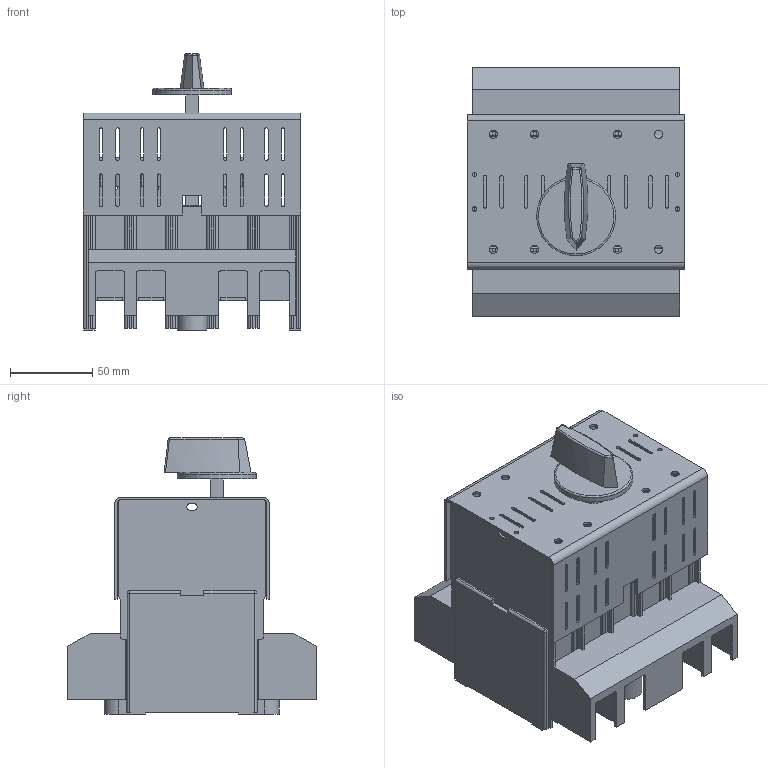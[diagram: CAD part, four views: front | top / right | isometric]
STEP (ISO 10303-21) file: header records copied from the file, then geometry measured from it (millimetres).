
FILE_DESCRIPTION(/* description */ (''),/* implementation_level */ '2;1');
FILE_NAME(/* name */ 'RAB 000 P3-R z oslona zaciskow.stp',/* time_stamp */ '2021-08-19T09:29:17+02:00',/* author */ (''),/* organization */ (''),/* preprocessor_version */ 'ST-DEVELOPER v18.1',/* originating_system */ 'SIEMENS PLM Software NX 1965',/* authorisation */ '');
FILE_SCHEMA (('AUTOMOTIVE_DESIGN { 1 0 10303 214 3 1 1 1 }'));
Length unit declared in the file: millimetre
Products named in the file (1): RAB 000 P3-R z oslona zaciskow
Bounding box: 132.5 x 151.03 x 168 mm (x, y, z)
Volume: 794739.9 mm3; surface area: 264027.1 mm2
Topology: 1 solids, 1 shells, 1162 faces, 3368 edges, 2185 vertices
Faces by surface type: plane 757, cylinder 324, extrusion 48, sphere 25, bspline 7, torus 1
Full cylindrical faces by diameter (mm): 2.7 x4, 5 x8, 5.8 x2, 6.5 x6, 10 x2, 11.5 x2, 20 x1, 48 x1
Entity records: 38654 total; most frequent: CARTESIAN_POINT 7896, ORIENTED_EDGE 6598, DIRECTION 6067, EDGE_CURVE 3299, VECTOR 2551, LINE 2503, VERTEX_POINT 2154, AXIS2_PLACEMENT_3D 1758
